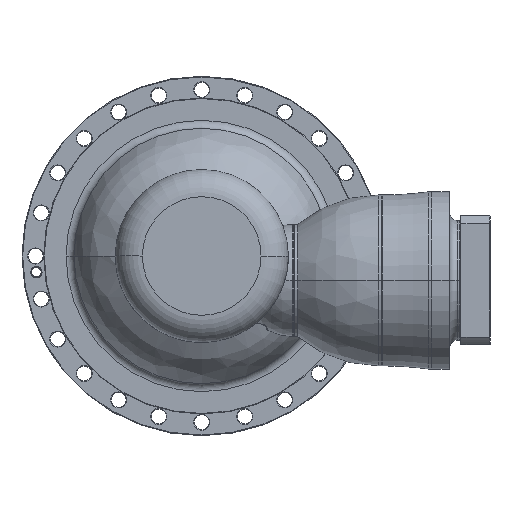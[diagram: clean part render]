
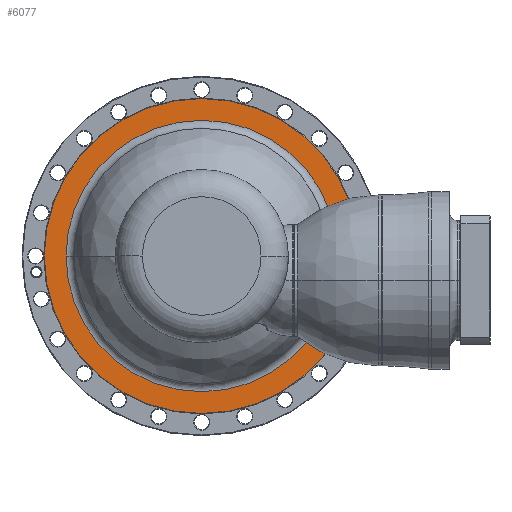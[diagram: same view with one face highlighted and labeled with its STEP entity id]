
A CAD part, left-side view. The second image highlights one B-rep face of the part: STEP entity #6077.
In plain terms, the highlighted planar face has unit normal (-1, 0, 0) as drawn and (1, 0, 0) by its records, which use the part's own axes.
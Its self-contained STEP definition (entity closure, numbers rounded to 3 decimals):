
#5548=CARTESIAN_POINT('',(-137.5,0.,0.));
#5549=DIRECTION('',(-1.,0.,0.));
#5550=DIRECTION('',(0.,-1.,0.));
#5551=AXIS2_PLACEMENT_3D('',#5548,#5549,#5550);
#5553=CARTESIAN_POINT('',(-137.5,0.,0.));
#5554=DIRECTION('',(-1.,0.,0.));
#5555=DIRECTION('',(0.,1.,0.));
#5556=AXIS2_PLACEMENT_3D('',#5553,#5554,#5555);
#5558=CARTESIAN_POINT('',(-137.5,0.,0.));
#5559=DIRECTION('',(1.,0.,0.));
#5560=DIRECTION('',(0.,-1.,0.));
#5561=AXIS2_PLACEMENT_3D('',#5558,#5559,#5560);
#5563=CARTESIAN_POINT('',(-137.5,0.,0.));
#5564=DIRECTION('',(1.,0.,0.));
#5565=DIRECTION('',(0.,1.,0.));
#5566=AXIS2_PLACEMENT_3D('',#5563,#5564,#5565);
#5795=CARTESIAN_POINT('',(-137.5,-232.2,0.));
#5796=CARTESIAN_POINT('',(-137.5,232.2,0.));
#5797=VERTEX_POINT('',#5795);
#5798=VERTEX_POINT('',#5796);
#5843=CARTESIAN_POINT('',(-137.5,-200.055,0.));
#5844=CARTESIAN_POINT('',(-137.5,200.055,0.));
#5845=VERTEX_POINT('',#5843);
#5846=VERTEX_POINT('',#5844);
#6061=CARTESIAN_POINT('',(-137.5,0.,0.));
#6062=DIRECTION('',(1.,0.,0.));
#6063=DIRECTION('',(0.,-1.,0.));
#6064=AXIS2_PLACEMENT_3D('',#6061,#6062,#6063);
#6065=PLANE('',#6064);
#6067=ORIENTED_EDGE('',*,*,#6066,.T.);
#6069=ORIENTED_EDGE('',*,*,#6068,.T.);
#6070=EDGE_LOOP('',(#6067,#6069));
#6071=FACE_OUTER_BOUND('',#6070,.F.);
#6072=ORIENTED_EDGE('',*,*,#6051,.T.);
#6074=ORIENTED_EDGE('',*,*,#6073,.T.);
#6075=EDGE_LOOP('',(#6072,#6074));
#6076=FACE_BOUND('',#6075,.F.);
#6077=ADVANCED_FACE('',(#6071,#6076),#6065,.T.);
#5552=CIRCLE('',#5551,232.2);
#5557=CIRCLE('',#5556,232.2);
#5562=CIRCLE('',#5561,200.055);
#5567=CIRCLE('',#5566,200.055);
#6051=EDGE_CURVE('',#5845,#5846,#5562,.T.);
#6066=EDGE_CURVE('',#5797,#5798,#5552,.T.);
#6068=EDGE_CURVE('',#5798,#5797,#5557,.T.);
#6073=EDGE_CURVE('',#5846,#5845,#5567,.T.);
